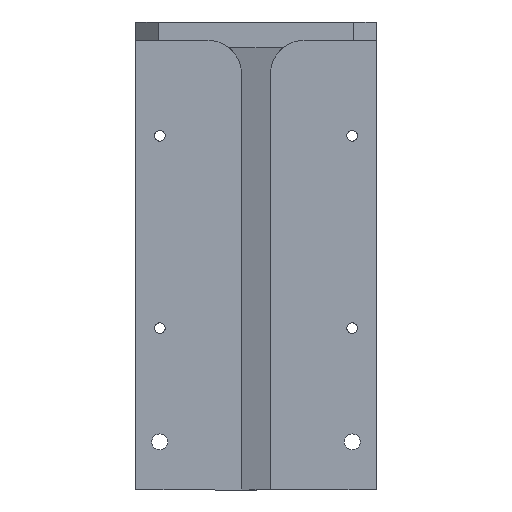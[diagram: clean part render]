
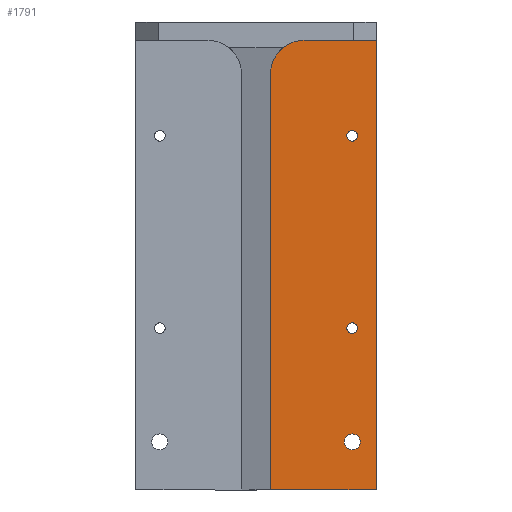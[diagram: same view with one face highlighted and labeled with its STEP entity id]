
A CAD part, left-side view. The second image highlights one B-rep face of the part: STEP entity #1791.
In plain terms, the highlighted planar face has unit normal (-1, 0, 0).
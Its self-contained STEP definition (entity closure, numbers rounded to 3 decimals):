
#14 = CIRCLE ( 'NONE', #123, 2.5 ) ;
#22 = CARTESIAN_POINT ( 'NONE',  ( 39., 0., -5.7 ) ) ;
#39 = AXIS2_PLACEMENT_3D ( 'NONE', #2995, #1131, #3280 ) ;
#49 = DIRECTION ( 'NONE',  ( 0., -1., 0. ) ) ;
#115 = AXIS2_PLACEMENT_3D ( 'NONE', #784, #2939, #3593 ) ;
#123 = AXIS2_PLACEMENT_3D ( 'NONE', #2591, #724, #2866 ) ;
#259 = EDGE_LOOP ( 'NONE', ( #2953, #1890 ) ) ;
#323 = EDGE_CURVE ( 'NONE', #2209, #2109, #14, .T. ) ;
#343 = ORIENTED_EDGE ( 'NONE', *, *, #631, .T. ) ;
#361 = EDGE_CURVE ( 'NONE', #1209, #545, #3751, .T. ) ;
#376 = CARTESIAN_POINT ( 'NONE',  ( 39., 0., -146. ) ) ;
#433 = VERTEX_POINT ( 'NONE', #1464 ) ;
#495 = EDGE_CURVE ( 'NONE', #433, #1763, #3607, .T. ) ;
#522 = EDGE_CURVE ( 'NONE', #1175, #3102, #3521, .T. ) ;
#545 = VERTEX_POINT ( 'NONE', #3581 ) ;
#556 = CARTESIAN_POINT ( 'NONE',  ( 39., 33., -192. ) ) ;
#582 = ORIENTED_EDGE ( 'NONE', *, *, #495, .T. ) ;
#631 = EDGE_CURVE ( 'NONE', #545, #1209, #3353, .T. ) ;
#649 = EDGE_CURVE ( 'NONE', #1763, #433, #3332, .T. ) ;
#724 = DIRECTION ( 'NONE',  ( 1., 0., 0. ) ) ;
#784 = CARTESIAN_POINT ( 'NONE',  ( 39., 7.5, -35.5 ) ) ;
#793 = ORIENTED_EDGE ( 'NONE', *, *, #1376, .F. ) ;
#842 = CARTESIAN_POINT ( 'NONE',  ( 39., 22.5, -5.7 ) ) ;
#854 = CARTESIAN_POINT ( 'NONE',  ( 39., 33., -146. ) ) ;
#894 = CARTESIAN_POINT ( 'NONE',  ( 39., 7.5, -95.5 ) ) ;
#1023 = CARTESIAN_POINT ( 'NONE',  ( 39., 33., -146. ) ) ;
#1057 = ORIENTED_EDGE ( 'NONE', *, *, #1432, .F. ) ;
#1131 = DIRECTION ( 'NONE',  ( 1., 0., 0. ) ) ;
#1144 = CARTESIAN_POINT ( 'NONE',  ( 39., 0., -192. ) ) ;
#1175 = VERTEX_POINT ( 'NONE', #376 ) ;
#1176 = DIRECTION ( 'NONE',  ( 1., 0., 0. ) ) ;
#1188 = DIRECTION ( 'NONE',  ( 0., 0., -1. ) ) ;
#1192 = EDGE_LOOP ( 'NONE', ( #1596, #582 ) ) ;
#1209 = VERTEX_POINT ( 'NONE', #2520 ) ;
#1225 = VECTOR ( 'NONE', #2427, 1000. ) ;
#1376 = EDGE_CURVE ( 'NONE', #1636, #1684, #2506, .T. ) ;
#1406 = EDGE_CURVE ( 'NONE', #2109, #2209, #2468, .T. ) ;
#1420 = EDGE_CURVE ( 'NONE', #1636, #1175, #2484, .T. ) ;
#1421 = DIRECTION ( 'NONE',  ( 0., 0., -1. ) ) ;
#1432 = EDGE_CURVE ( 'NONE', #1814, #3102, #2448, .T. ) ;
#1434 = DIRECTION ( 'NONE',  ( 1., 0., 0. ) ) ;
#1440 = EDGE_CURVE ( 'NONE', #1814, #1684, #2418, .T. ) ;
#1448 = DIRECTION ( 'NONE',  ( 0., 0., 1. ) ) ;
#1455 = CARTESIAN_POINT ( 'NONE',  ( 39., 0., -5.7 ) ) ;
#1464 = CARTESIAN_POINT ( 'NONE',  ( 39., 7.5, -93.85 ) ) ;
#1473 = DIRECTION ( 'NONE',  ( -1., 0., 0. ) ) ;
#1530 = EDGE_LOOP ( 'NONE', ( #793, #3483, #2187, #1057, #3553 ) ) ;
#1596 = ORIENTED_EDGE ( 'NONE', *, *, #649, .T. ) ;
#1636 = VERTEX_POINT ( 'NONE', #1023 ) ;
#1684 = VERTEX_POINT ( 'NONE', #2905 ) ;
#1763 = VERTEX_POINT ( 'NONE', #2676 ) ;
#1791 = ADVANCED_FACE ( 'NONE', ( #2204, #2179, #2191, #2181 ), #3256, .F. ) ;
#1814 = VERTEX_POINT ( 'NONE', #842 ) ;
#1890 = ORIENTED_EDGE ( 'NONE', *, *, #323, .T. ) ;
#2109 = VERTEX_POINT ( 'NONE', #3334 ) ;
#2179 = FACE_BOUND ( 'NONE', #1192, .T. ) ;
#2181 = FACE_OUTER_BOUND ( 'NONE', #1530, .T. ) ;
#2187 = ORIENTED_EDGE ( 'NONE', *, *, #522, .T. ) ;
#2191 = FACE_BOUND ( 'NONE', #259, .T. ) ;
#2204 = FACE_BOUND ( 'NONE', #2570, .T. ) ;
#2209 = VERTEX_POINT ( 'NONE', #2596 ) ;
#2418 = CIRCLE ( 'NONE', #3707, 10.5 ) ;
#2427 = DIRECTION ( 'NONE',  ( 0., -1., 0. ) ) ;
#2433 = VECTOR ( 'NONE', #49, 1000. ) ;
#2448 = LINE ( 'NONE', #1455, #2433 ) ;
#2468 = CIRCLE ( 'NONE', #3754, 2.5 ) ;
#2484 = LINE ( 'NONE', #854, #1225 ) ;
#2499 = VECTOR ( 'NONE', #3411, 1000. ) ;
#2506 = LINE ( 'NONE', #2850, #2499 ) ;
#2520 = CARTESIAN_POINT ( 'NONE',  ( 39., 7.5, -33.85 ) ) ;
#2570 = EDGE_LOOP ( 'NONE', ( #343, #2701 ) ) ;
#2591 = CARTESIAN_POINT ( 'NONE',  ( 39., 7.5, -131. ) ) ;
#2596 = CARTESIAN_POINT ( 'NONE',  ( 39., 7.5, -128.5 ) ) ;
#2676 = CARTESIAN_POINT ( 'NONE',  ( 39., 7.5, -97.15 ) ) ;
#2701 = ORIENTED_EDGE ( 'NONE', *, *, #361, .T. ) ;
#2850 = CARTESIAN_POINT ( 'NONE',  ( 39., 33., -192. ) ) ;
#2866 = DIRECTION ( 'NONE',  ( 0., 0., -1. ) ) ;
#2905 = CARTESIAN_POINT ( 'NONE',  ( 39., 33., -16.2 ) ) ;
#2939 = DIRECTION ( 'NONE',  ( 1., 0., 0. ) ) ;
#2953 = ORIENTED_EDGE ( 'NONE', *, *, #1406, .T. ) ;
#2995 = CARTESIAN_POINT ( 'NONE',  ( 39., 7.5, -95.5 ) ) ;
#3041 = CARTESIAN_POINT ( 'NONE',  ( 39., 7.5, -35.5 ) ) ;
#3058 = DIRECTION ( 'NONE',  ( 1., 0., 0. ) ) ;
#3102 = VERTEX_POINT ( 'NONE', #22 ) ;
#3226 = AXIS2_PLACEMENT_3D ( 'NONE', #894, #3058, #1188 ) ;
#3256 = PLANE ( 'NONE',  #3431 ) ;
#3269 = DIRECTION ( 'NONE',  ( 1., 0., 0. ) ) ;
#3280 = DIRECTION ( 'NONE',  ( 0., 0., -1. ) ) ;
#3286 = CARTESIAN_POINT ( 'NONE',  ( 39., 7.5, -131. ) ) ;
#3311 = CARTESIAN_POINT ( 'NONE',  ( 39., 22.5, -16.2 ) ) ;
#3316 = DIRECTION ( 'NONE',  ( 0., 0., -1. ) ) ;
#3332 = CIRCLE ( 'NONE', #3226, 1.65 ) ;
#3334 = CARTESIAN_POINT ( 'NONE',  ( 39., 7.5, -133.5 ) ) ;
#3353 = CIRCLE ( 'NONE', #3565, 1.65 ) ;
#3411 = DIRECTION ( 'NONE',  ( 0., 0., 1. ) ) ;
#3431 = AXIS2_PLACEMENT_3D ( 'NONE', #556, #3269, #1421 ) ;
#3483 = ORIENTED_EDGE ( 'NONE', *, *, #1420, .T. ) ;
#3508 = VECTOR ( 'NONE', #1448, 1000. ) ;
#3521 = LINE ( 'NONE', #1144, #3508 ) ;
#3543 = DIRECTION ( 'NONE',  ( 0., 0., -1. ) ) ;
#3553 = ORIENTED_EDGE ( 'NONE', *, *, #1440, .T. ) ;
#3565 = AXIS2_PLACEMENT_3D ( 'NONE', #3041, #1176, #3316 ) ;
#3573 = DIRECTION ( 'NONE',  ( 0., 0., -1. ) ) ;
#3581 = CARTESIAN_POINT ( 'NONE',  ( 39., 7.5, -37.15 ) ) ;
#3593 = DIRECTION ( 'NONE',  ( 0., 0., -1. ) ) ;
#3607 = CIRCLE ( 'NONE', #39, 1.65 ) ;
#3707 = AXIS2_PLACEMENT_3D ( 'NONE', #3311, #1473, #3573 ) ;
#3751 = CIRCLE ( 'NONE', #115, 1.65 ) ;
#3754 = AXIS2_PLACEMENT_3D ( 'NONE', #3286, #1434, #3543 ) ;
